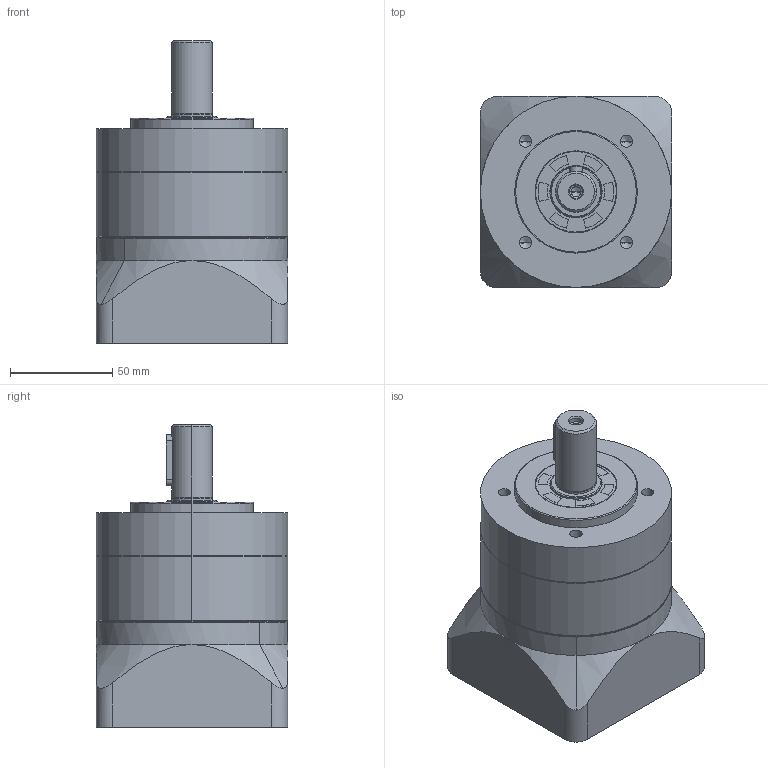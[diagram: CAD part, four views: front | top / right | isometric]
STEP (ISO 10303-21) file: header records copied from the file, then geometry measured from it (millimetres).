
FILE_DESCRIPTION (( 'STEP AP203' ), '1' );
FILE_NAME ('NB93-L1(14-60-98.7-M6).STEP', '2022-03-12T17:17:25', ( '' ), ( '' ), 'SwSTEP 2.0', 'SolidWorks 2016', '' );
FILE_SCHEMA (( 'CONFIG_CONTROL_DESIGN' ));
Length unit declared in the file: millimetre
Products named in the file (10): DP93; SN93-(60-98.7-M6); NB93-(60x5-70-M6); NB93-L1(14-60-98.7-M6); SN90-48x27x15-M6; SN93-(20x37-6x25); SN90-25x40x5; SN93; SN90-(19); 90-(o19-14x26)
Assembly tree (9 placements, depth 2):
  NB93-L1(14-60-98.7-M6)
    NB93-(60x5-70-M6)
    SN90-25x40x5
    SN93-(20x37-6x25)
    SN93
    DP93
    SN93-(60-98.7-M6)
    SN90-(19)
    90-(o19-14x26)
    SN90-48x27x15-M6
Bounding box: 93.5 x 93.5 x 148.1 mm (x, y, z)
Volume: 736382 mm3; surface area: 134391.3 mm2
Topology: 11 solids, 11 shells, 436 faces, 1104 edges, 696 vertices
Faces by surface type: cylinder 222, plane 113, cone 63, bspline 32, torus 6
Entity records: 30178 total; most frequent: CARTESIAN_POINT 19168, ORIENTED_EDGE 2156, DIRECTION 2023, EDGE_CURVE 1078, AXIS2_PLACEMENT_3D 792, VERTEX_POINT 696, EDGE_LOOP 506, VECTOR 439
